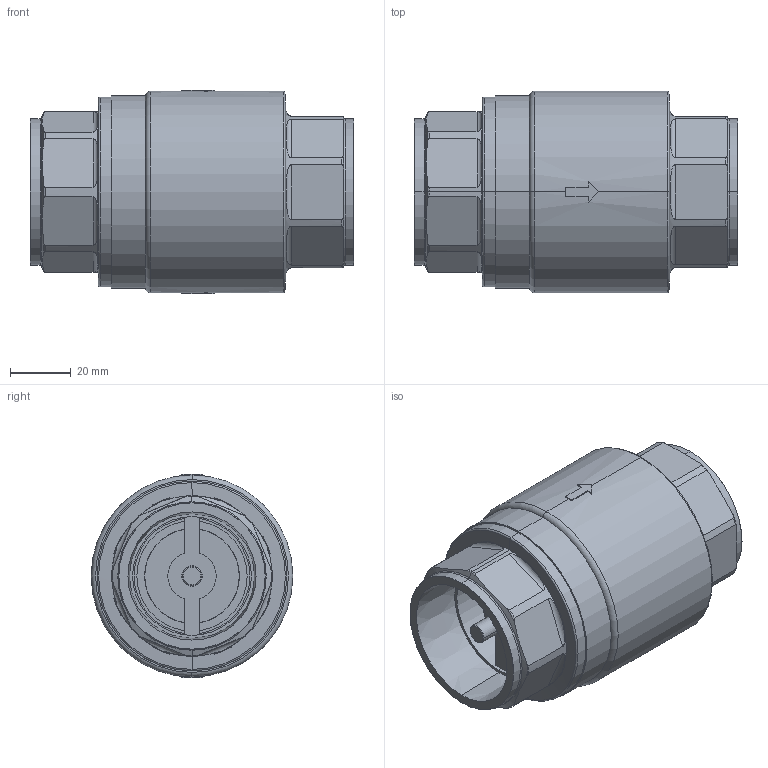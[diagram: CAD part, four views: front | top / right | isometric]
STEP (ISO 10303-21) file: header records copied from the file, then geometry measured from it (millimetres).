
FILE_DESCRIPTION (( 'STEP AP203' ), '1' );
FILE_NAME ('SCI-10.STEP', '2023-08-02T14:37:54', ( '' ), ( '' ), 'SwSTEP 2.0', 'SolidWorks 2021', '' );
FILE_SCHEMA (( 'CONFIG_CONTROL_DESIGN' ));
Length unit declared in the file: inch
Products named in the file (5): SCI-10-BODY; SCI-10-SPRING; SCI-10-SEAT; SCI-10-POPPET; SCI-10
Assembly tree (4 placements, depth 2):
  SCI-10
    SCI-10-BODY
    SCI-10-SEAT
    SCI-10-POPPET
    SCI-10-SPRING
Bounding box: 106.43 x 66.42 x 67.06 mm (x, y, z)
Volume: 118508.9 mm3; surface area: 49360.9 mm2
Topology: 4 solids, 4 shells, 201 faces, 507 edges, 323 vertices
Faces by surface type: cylinder 70, plane 70, torus 41, cone 18, bspline 2
Entity records: 12338 total; most frequent: CARTESIAN_POINT 6972, DIRECTION 1044, ORIENTED_EDGE 1012, EDGE_CURVE 506, AXIS2_PLACEMENT_3D 430, VERTEX_POINT 321, CIRCLE 224, EDGE_LOOP 221
